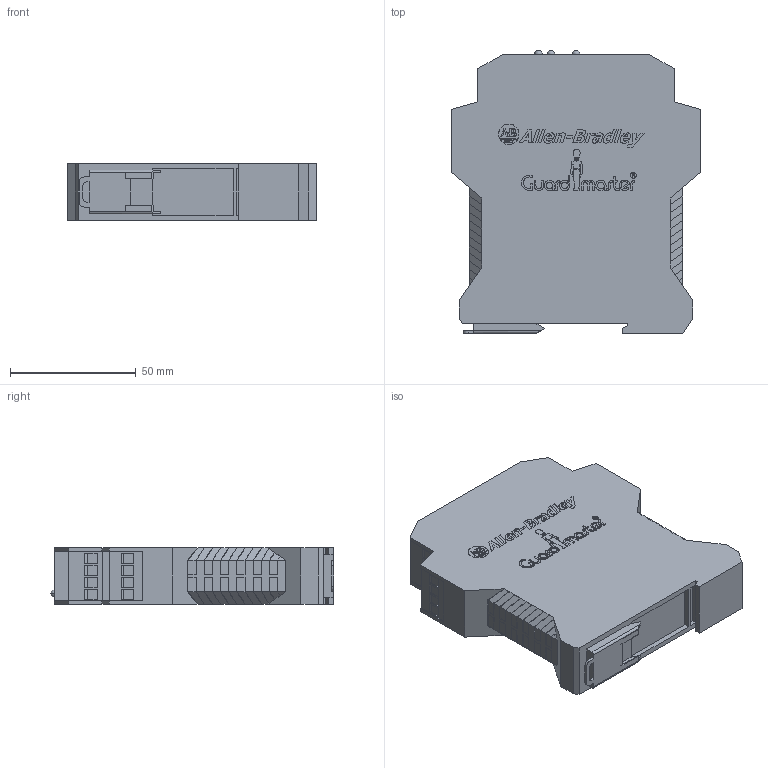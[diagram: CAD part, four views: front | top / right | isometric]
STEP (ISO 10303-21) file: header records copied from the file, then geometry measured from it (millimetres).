
FILE_DESCRIPTION((''),'2;1');
FILE_NAME('MSR127TP','2007-08-13T',('jcarval'),('Rockwell Automation'),'PRO/ENGINEER BY PARAMETRIC TECHNOLOGY CORPORATION, 2005110','PRO/ENGINEER BY PARAMETRIC TECHNOLOGY CORPORATION, 2005110','');
FILE_SCHEMA(('CONFIG_CONTROL_DESIGN'));
Products named in the file (1): MSR127TP
Bounding box: 99.1 x 112.73 x 22.65 mm (x, y, z)
Volume: 211147.9 mm3; surface area: 30114.5 mm2
Topology: 1 solids, 1 shells, 2173 faces, 5668 edges, 3707 vertices
Faces by surface type: plane 1504, bspline 549, cylinder 114, sphere 6
Entity records: 87029 total; most frequent: CARTESIAN_POINT 37827, ORIENTED_EDGE 11324, DIRECTION 8040, EDGE_CURVE 5662, VECTOR 4324, LINE 4324, VERTEX_POINT 3707, EDGE_LOOP 2391
